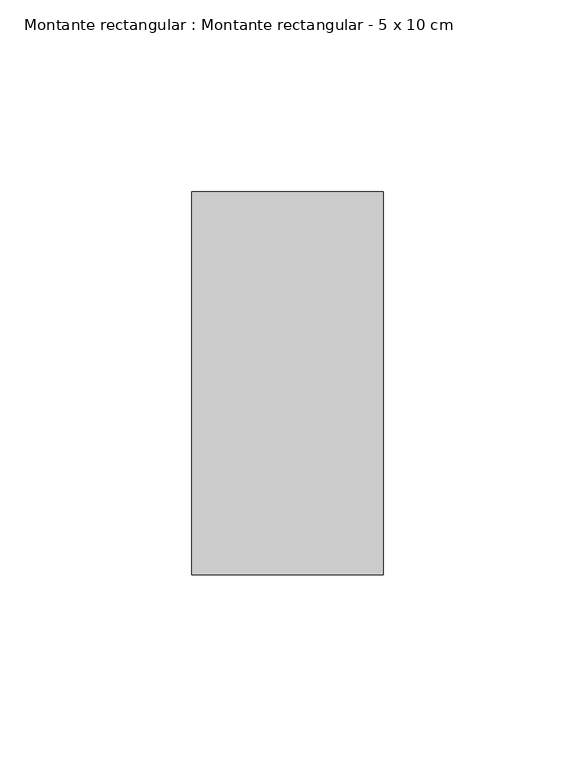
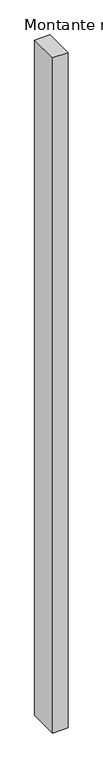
"""IFC4 building model written with IfcOpenShell, lengths in millimetres: member geometry, Montante rectangular : Montante rectangular - 5 x 10 cm."""

from ifc_helpers import new_model, si_unit, frame, origin, place, context, project, spatial, polyline, outline, extrude, source, transform, mapped, element, save


def montante_rectangular_montante_rectangular_5_x_10_cm_a45a8891(model_context):
    return source(origin(), model_context, "Body", "SweptSolid", [
        extrude(outline(polyline([(-50.0, 50.0), (0.0, 50.0), (0.0, -50.0), (-50.0, -50.0), (-50.0, 50.0)])), frame((0.0, 0.0, -2300.0), z_axis=(0.0, 0.0, 1.0), x_axis=(1.0, 0.0, 0.0)), (0.0, 0.0, 1.0), 2300.0),
    ])


if __name__ == "__main__":
    model = new_model("IFC4")
    model_context = context("Model", 3, world=origin())
    ifc_project = project(units=[si_unit("LENGTHUNIT", "METRE", prefix="MILLI")], contexts=[model_context])
    site = spatial("IfcSite", under=ifc_project)
    building = spatial("IfcBuilding", under=site)
    placement = place(None, origin())
    montante_rectangular_montante_rectangular_5_x_10_cm_shape = montante_rectangular_montante_rectangular_5_x_10_cm_a45a8891(model_context)
    element("IfcMember", 1, ObjectType="Montante rectangular : Montante rectangular - 5 x 10 cm", at=placement, inside=building, context=model_context, shape_type="MappedRepresentation", body=[
        mapped(montante_rectangular_montante_rectangular_5_x_10_cm_shape, transform((0.0, 0.0, 0.0), x_axis=(1.0, 0.0, 0.0), y_axis=(0.0, 1.0, 0.0), z_axis=(0.0, 0.0, 1.0))),
    ])
    save(model, "model.ifc")
